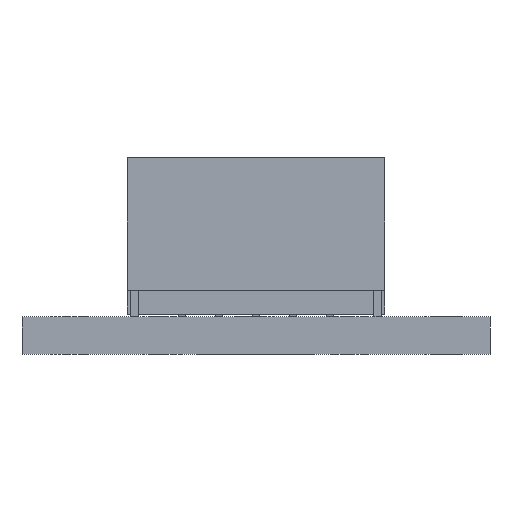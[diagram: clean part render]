
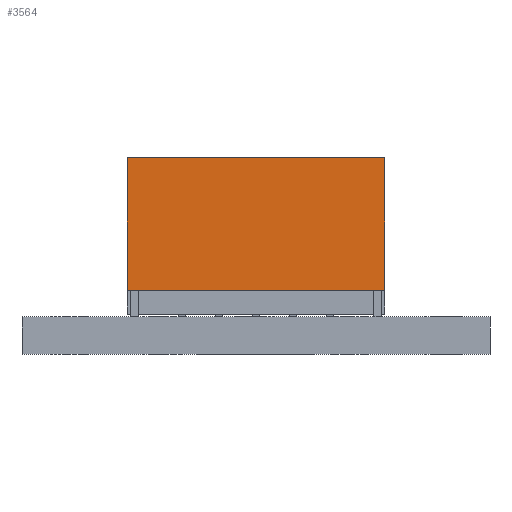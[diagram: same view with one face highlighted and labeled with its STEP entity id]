
A CAD part, front view. The second image highlights one B-rep face of the part: STEP entity #3564.
In plain terms, the highlighted planar face has unit normal (0, -1, 0).
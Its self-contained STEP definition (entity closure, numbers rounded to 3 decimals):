
#862 = CARTESIAN_POINT ( 'NONE',  ( 197.81, 386.829, 1.736 ) ) ;
#1112 = CARTESIAN_POINT ( 'NONE',  ( 197.81, 386.829, 5.336 ) ) ;
#1792 = ORIENTED_EDGE ( 'NONE', *, *, #19362, .T. ) ;
#2012 = CARTESIAN_POINT ( 'NONE',  ( 190.81, 386.829, 5.336 ) ) ;
#2344 = DIRECTION ( 'NONE',  ( -1., 0., 0. ) ) ;
#3026 = LINE ( 'NONE', #5572, #9641 ) ;
#3102 = LINE ( 'NONE', #27008, #25592 ) ;
#3564 = ADVANCED_FACE ( 'NONE', ( #25837 ), #12966, .F. ) ;
#4794 = CARTESIAN_POINT ( 'NONE',  ( 190.81, 386.829, 1.736 ) ) ;
#5572 = CARTESIAN_POINT ( 'NONE',  ( 190.81, 386.829, 1.736 ) ) ;
#5841 = DIRECTION ( 'NONE',  ( 1., 0., 0. ) ) ;
#6750 = CARTESIAN_POINT ( 'NONE',  ( 190.81, 386.829, 5.336 ) ) ;
#8382 = CARTESIAN_POINT ( 'NONE',  ( 190.81, 386.829, 5.336 ) ) ;
#8857 = ORIENTED_EDGE ( 'NONE', *, *, #10060, .T. ) ;
#9466 = DIRECTION ( 'NONE',  ( 1., 0., 0. ) ) ;
#9641 = VECTOR ( 'NONE', #9466, 1000. ) ;
#9701 = ORIENTED_EDGE ( 'NONE', *, *, #11109, .F. ) ;
#9747 = VERTEX_POINT ( 'NONE', #862 ) ;
#10060 = EDGE_CURVE ( 'NONE', #17642, #16894, #26731, .T. ) ;
#10873 = DIRECTION ( 'NONE',  ( 0., 0., -1. ) ) ;
#11109 = EDGE_CURVE ( 'NONE', #11191, #9747, #3102, .T. ) ;
#11191 = VERTEX_POINT ( 'NONE', #1112 ) ;
#12030 = EDGE_CURVE ( 'NONE', #17642, #11191, #18962, .T. ) ;
#12966 = PLANE ( 'NONE',  #21898 ) ;
#15588 = DIRECTION ( 'NONE',  ( 0., 1., 0. ) ) ;
#16894 = VERTEX_POINT ( 'NONE', #4794 ) ;
#17642 = VERTEX_POINT ( 'NONE', #8382 ) ;
#17734 = ORIENTED_EDGE ( 'NONE', *, *, #12030, .F. ) ;
#18962 = LINE ( 'NONE', #2012, #19595 ) ;
#19362 = EDGE_CURVE ( 'NONE', #16894, #9747, #3026, .T. ) ;
#19401 = EDGE_LOOP ( 'NONE', ( #8857, #1792, #9701, #17734 ) ) ;
#19595 = VECTOR ( 'NONE', #5841, 1000. ) ;
#21898 = AXIS2_PLACEMENT_3D ( 'NONE', #6750, #15588, #2344 ) ;
#22128 = CARTESIAN_POINT ( 'NONE',  ( 190.81, 386.829, 5.336 ) ) ;
#23132 = VECTOR ( 'NONE', #10873, 1000. ) ;
#25451 = DIRECTION ( 'NONE',  ( 0., 0., -1. ) ) ;
#25592 = VECTOR ( 'NONE', #25451, 1000. ) ;
#25837 = FACE_OUTER_BOUND ( 'NONE', #19401, .T. ) ;
#26731 = LINE ( 'NONE', #22128, #23132 ) ;
#27008 = CARTESIAN_POINT ( 'NONE',  ( 197.81, 386.829, 5.336 ) ) ;
